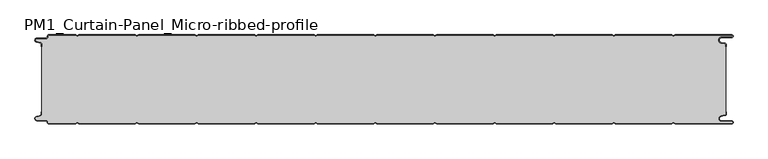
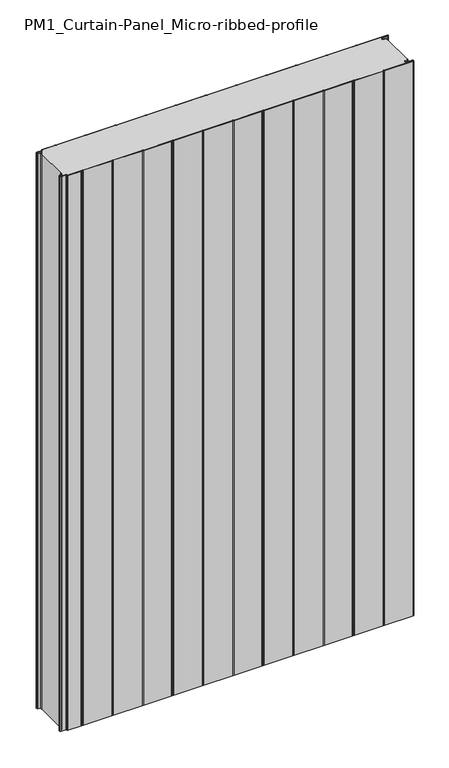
"""IFC4 building model written with IfcOpenShell, lengths in millimetres: plate geometry, PM1_Curtain-Panel_Micro-ribbed-profile : ACH_PM1_Stone-wool-Panel_150M."""

from ifc_helpers import new_model, si_unit, point, frame_2d, origin, origin_with_axes, place, context, project, spatial, polyline, circle_curve, trimmed, segment, composite_curve, outline, extrude, source, transform, mapped, element, save


def pm1_curtain_panel_micro_ribbed_profile_ceefda32(model_context):
    return source(origin(), model_context, "Body", "SweptSolid", [
        extrude(outline(composite_curve([segment(trimmed(circle_curve(frame_2d((-577.0, -15.878557)), 2.0), [point((-575.0, -15.878557))], [point((-576.5500978, -13.9298169))], True, "CARTESIAN"), True, "CONTINUOUS"), segment(polyline([(-576.5500978, -13.9298169), (-582.7098239, -12.507732)]), True, "CONTINUOUS"), segment(trimmed(circle_curve(frame_2d((-581.9, -9.0)), 3.6), [point((-582.7098239, -12.507732))], [point((-581.9, -5.4))], False, "CARTESIAN"), True, "CONTINUOUS"), segment(polyline([(-581.9, -5.4), (-566.4, -5.4)]), True, "CONTINUOUS"), segment(trimmed(circle_curve(frame_2d((-566.4, -3.4)), 2.0), [point((-566.4, -5.4))], [point((-564.4, -3.4))], True, "CARTESIAN"), True, "CONTINUOUS"), segment(polyline([(-564.4, -3.4), (-564.4, -2.0)]), True, "CONTINUOUS"), segment(trimmed(circle_curve(frame_2d((-562.4, -2.0)), 2.0), [point((-564.4, -2.0))], [point((-562.4, 0.0))], False, "CARTESIAN"), True, "CONTINUOUS"), segment(polyline([(-562.4, 0.0), (-517.0999995, 0.0), (-514.4, -1.5588455), (-511.7000005, 0.0), (-417.0999995, 0.0), (-414.4, -1.5588455), (-411.7000005, 0.0), (-317.0999995, 0.0), (-314.4, -1.5588455), (-311.7000005, 0.0), (-217.0999995, 0.0), (-214.4, -1.5588455), (-211.7000005, 0.0), (-117.0999995, 0.0), (-114.4, -1.5588455), (-111.7000005, 0.0), (-17.0999995, 0.0), (-14.4, -1.5588455), (-11.7000005, 0.0), (82.9000005, 0.0), (85.6, -1.5588455), (88.2999995, 0.0), (182.9000005, 0.0), (185.6, -1.5588455), (188.2999995, 0.0), (282.9000005, 0.0), (285.6, -1.5588455), (288.2999995, 0.0), (382.9000005, 0.0), (385.6, -1.5588455), (388.2999995, 0.0), (482.9000005, 0.0), (485.6, -1.5588455), (488.2999995, 0.0), (583.1, 0.0)]), True, "CONTINUOUS"), segment(trimmed(circle_curve(frame_2d((583.1, -2.5)), 2.5), [point((583.1, 0.0))], [point((583.1, -5.0))], False, "CARTESIAN"), True, "CONTINUOUS"), segment(polyline([(583.1, -5.0), (566.1, -5.0)]), True, "CONTINUOUS"), segment(trimmed(circle_curve(frame_2d((566.1, -9.0)), 4.0), [point((566.1, -5.0))], [point((565.405407, -12.939231))], True, "CARTESIAN"), True, "CONTINUOUS"), segment(polyline([(565.405407, -12.939231), (571.8514855, -14.0758491)]), True, "CONTINUOUS"), segment(trimmed(circle_curve(frame_2d((571.4, -16.6363492)), 2.6), [point((571.8514855, -14.0758491))], [point((574.0, -16.6363492))], False, "CARTESIAN"), True, "CONTINUOUS"), segment(polyline([(574.0, -16.6363492), (574.0, -20.0), (573.2, -20.0), (573.2, -16.6363492)]), True, "CONTINUOUS"), segment(trimmed(circle_curve(frame_2d((571.4, -16.6363492)), 1.8), [point((573.2, -16.6363492))], [point((571.7125669, -14.8636953))], True, "CARTESIAN"), True, "CONTINUOUS"), segment(polyline([(571.7125669, -14.8636953), (565.2664884, -13.7270772)]), True, "CONTINUOUS"), segment(trimmed(circle_curve(frame_2d((566.1, -9.0)), 4.8), [point((565.2664884, -13.7270772))], [point((566.1, -4.2))], False, "CARTESIAN"), True, "CONTINUOUS"), segment(polyline([(566.1, -4.2), (583.1, -4.2)]), True, "CONTINUOUS"), segment(trimmed(circle_curve(frame_2d((583.1, -2.5)), 1.7), [point((583.1, -4.2))], [point((583.1, -0.8))], True, "CARTESIAN"), True, "CONTINUOUS"), segment(polyline([(583.1, -0.8), (488.5143588, -0.8), (485.6, -2.482606), (482.6856412, -0.8), (388.5143588, -0.8), (385.6, -2.482606), (382.6856412, -0.8), (288.5143588, -0.8), (285.6, -2.482606), (282.6856412, -0.8), (188.5143588, -0.8), (185.6, -2.482606), (182.6856412, -0.8), (88.5143588, -0.8), (85.6, -2.482606), (82.6856412, -0.8), (-11.4856412, -0.8), (-14.4, -2.482606), (-17.3143588, -0.8), (-111.4856412, -0.8), (-114.4, -2.482606), (-117.3143588, -0.8), (-211.4856412, -0.8), (-214.4, -2.482606), (-217.3143588, -0.8), (-311.4856412, -0.8), (-314.4, -2.482606), (-317.3143588, -0.8), (-411.4856412, -0.8), (-414.4, -2.482606), (-417.3143588, -0.8), (-511.4856412, -0.8), (-514.4, -2.482606), (-517.3143588, -0.8), (-562.4, -0.8)]), True, "CONTINUOUS"), segment(trimmed(circle_curve(frame_2d((-562.4, -2.0)), 1.2), [point((-562.4, -0.8))], [point((-563.6, -2.0))], True, "CARTESIAN"), True, "CONTINUOUS"), segment(polyline([(-563.6, -2.0), (-563.6, -3.4)]), True, "CONTINUOUS"), segment(trimmed(circle_curve(frame_2d((-566.4, -3.4)), 2.8), [point((-563.6, -3.4))], [point((-566.4, -6.2))], False, "CARTESIAN"), True, "CONTINUOUS"), segment(polyline([(-566.4, -6.2), (-581.9, -6.2)]), True, "CONTINUOUS"), segment(trimmed(circle_curve(frame_2d((-581.9, -9.0)), 2.8), [point((-581.9, -6.2))], [point((-582.529863, -11.7282362))], True, "CARTESIAN"), True, "CONTINUOUS"), segment(polyline([(-582.529863, -11.7282362), (-576.370137, -13.150321)]), True, "CONTINUOUS"), segment(trimmed(circle_curve(frame_2d((-577.0, -15.878557)), 2.8), [point((-576.370137, -13.150321))], [point((-574.2, -15.878557))], False, "CARTESIAN"), True, "CONTINUOUS"), segment(polyline([(-574.2, -15.878557), (-574.2, -20.0), (-575.0, -20.0), (-575.0, -15.878557)]), True, "CONTINUOUS")], self_intersect=False)), origin_with_axes(), (0.0, 0.0, 1.0), 1945.7507136),
        extrude(outline(composite_curve([segment(polyline([(-574.2, -134.1214426), (-574.2, -15.8785573)]), True, "CONTINUOUS"), segment(trimmed(circle_curve(frame_2d((-577.0, -15.8785573)), 2.8), [point((-574.2, -15.8785573))], [point((-576.370137, -13.1503212))], True, "CARTESIAN"), True, "CONTINUOUS"), segment(polyline([(-576.370137, -13.1503212), (-582.5298631, -11.7282362)]), True, "CONTINUOUS"), segment(trimmed(circle_curve(frame_2d((-581.9, -9.0)), 2.8), [point((-582.5298631, -11.7282362))], [point((-581.9, -6.2))], False, "CARTESIAN"), True, "CONTINUOUS"), segment(polyline([(-581.9, -6.2), (-566.4000001, -6.2)]), True, "CONTINUOUS"), segment(trimmed(circle_curve(frame_2d((-566.4000001, -3.4)), 2.8), [point((-566.4000001, -6.2))], [point((-563.6000001, -3.4))], True, "CARTESIAN"), True, "CONTINUOUS"), segment(polyline([(-563.6000001, -3.4), (-563.6000001, -2.0)]), True, "CONTINUOUS"), segment(trimmed(circle_curve(frame_2d((-562.4000001, -2.0)), 1.2), [point((-563.6000001, -2.0))], [point((-562.4000001, -0.8))], False, "CARTESIAN"), True, "CONTINUOUS"), segment(polyline([(-562.4000001, -0.8), (-517.3143589, -0.8), (-514.4000001, -2.482606), (-511.4856412, -0.8), (-417.3143589, -0.8), (-414.4000001, -2.482606), (-411.4856412, -0.8), (-317.3143589, -0.8), (-314.4000001, -2.482606), (-311.4856412, -0.8), (-217.3143589, -0.8), (-214.4000001, -2.482606), (-211.4856412, -0.8), (-117.3143589, -0.8), (-114.4000001, -2.482606), (-111.4856412, -0.8), (-17.3143589, -0.8), (-14.4000001, -2.482606), (-11.4856412, -0.8), (82.6856411, -0.8), (85.5999999, -2.482606), (88.5143588, -0.8), (182.6856411, -0.8), (185.5999999, -2.482606), (188.5143588, -0.8), (282.6856411, -0.8), (285.5999999, -2.482606), (288.5143588, -0.8), (382.6856411, -0.8), (385.5999999, -2.482606), (388.5143588, -0.8), (482.6856411, -0.8), (485.6, -2.482606), (488.5143588, -0.8), (583.1, -0.8)]), True, "CONTINUOUS"), segment(trimmed(circle_curve(frame_2d((583.1, -2.5)), 1.7), [point((583.1, -0.8))], [point((583.1, -4.2))], False, "CARTESIAN"), True, "CONTINUOUS"), segment(polyline([(583.1, -4.2), (566.1, -4.2)]), True, "CONTINUOUS"), segment(trimmed(circle_curve(frame_2d((566.1, -9.0)), 4.8), [point((566.1, -4.2))], [point((565.2664883, -13.7270771))], True, "CARTESIAN"), True, "CONTINUOUS"), segment(polyline([(565.2664883, -13.7270771), (571.7125668, -14.8636953)]), True, "CONTINUOUS"), segment(trimmed(circle_curve(frame_2d((571.4, -16.6363492)), 1.8), [point((571.7125668, -14.8636953))], [point((573.2, -16.6363492))], False, "CARTESIAN"), True, "CONTINUOUS"), segment(polyline([(573.2, -16.6363492), (573.2, -133.3636508)]), True, "CONTINUOUS"), segment(trimmed(circle_curve(frame_2d((571.4, -133.3636508)), 1.8), [point((573.2, -133.3636508))], [point((571.7125668, -135.1363047))], False, "CARTESIAN"), True, "CONTINUOUS"), segment(polyline([(571.7125668, -135.1363047), (565.2664883, -136.2729229)]), True, "CONTINUOUS"), segment(trimmed(circle_curve(frame_2d((566.1, -141.0)), 4.8), [point((565.2664883, -136.2729229))], [point((566.1, -145.8))], True, "CARTESIAN"), True, "CONTINUOUS"), segment(polyline([(566.1, -145.8), (583.1, -145.8)]), True, "CONTINUOUS"), segment(trimmed(circle_curve(frame_2d((583.1, -147.5)), 1.7), [point((583.1, -145.8))], [point((583.1, -149.2))], False, "CARTESIAN"), True, "CONTINUOUS"), segment(polyline([(583.1, -149.2), (488.5143588, -149.2), (485.6, -147.517394), (482.6856411, -149.2), (388.5143588, -149.2), (385.5999999, -147.517394), (382.6856411, -149.2), (288.5143588, -149.2), (285.5999999, -147.517394), (282.6856411, -149.2), (188.5143588, -149.2), (185.5999999, -147.517394), (182.6856411, -149.2), (88.5143588, -149.2), (85.5999999, -147.517394), (82.6856411, -149.2), (-11.4856412, -149.2), (-14.4000001, -147.517394), (-17.3143589, -149.2), (-111.4856412, -149.2), (-114.4000001, -147.517394), (-117.3143589, -149.2), (-211.4856412, -149.2), (-214.4000001, -147.517394), (-217.3143589, -149.2), (-311.4856412, -149.2), (-314.4000001, -147.517394), (-317.3143589, -149.2), (-411.4856412, -149.2), (-414.4000001, -147.517394), (-417.3143589, -149.2), (-511.4856412, -149.2), (-514.4000001, -147.517394), (-517.3143589, -149.2), (-562.4000001, -149.2)]), True, "CONTINUOUS"), segment(trimmed(circle_curve(frame_2d((-562.4000001, -148.0)), 1.2), [point((-562.4000001, -149.2))], [point((-563.6000001, -148.0))], False, "CARTESIAN"), True, "CONTINUOUS"), segment(polyline([(-563.6000001, -148.0), (-563.6000001, -146.6)]), True, "CONTINUOUS"), segment(trimmed(circle_curve(frame_2d((-566.4000001, -146.6)), 2.8), [point((-563.6000001, -146.6))], [point((-566.4000001, -143.8))], True, "CARTESIAN"), True, "CONTINUOUS"), segment(polyline([(-566.4000001, -143.8), (-581.9, -143.8)]), True, "CONTINUOUS"), segment(trimmed(circle_curve(frame_2d((-581.9, -141.0)), 2.8), [point((-581.9, -143.8))], [point((-582.5298631, -138.2717638))], False, "CARTESIAN"), True, "CONTINUOUS"), segment(polyline([(-582.5298631, -138.2717638), (-576.370137, -136.8496788)]), True, "CONTINUOUS"), segment(trimmed(circle_curve(frame_2d((-577.0, -134.1214426)), 2.8), [point((-576.370137, -136.8496788))], [point((-574.2, -134.1214426))], True, "CARTESIAN"), True, "CONTINUOUS")], self_intersect=False)), origin_with_axes(), (0.0, 0.0, 1.0), 1945.7507136),
        extrude(outline(composite_curve([segment(polyline([(-575.0, -134.121443), (-575.0, -130.0), (-574.2, -130.0), (-574.2, -134.121443)]), True, "CONTINUOUS"), segment(trimmed(circle_curve(frame_2d((-577.0, -134.121443)), 2.8), [point((-574.2, -134.121443))], [point((-576.370137, -136.8496792))], False, "CARTESIAN"), True, "CONTINUOUS"), segment(polyline([(-576.370137, -136.8496792), (-582.529863, -138.271764)]), True, "CONTINUOUS"), segment(trimmed(circle_curve(frame_2d((-581.9, -141.0)), 2.8), [point((-582.529863, -138.271764))], [point((-581.9, -143.8))], True, "CARTESIAN"), True, "CONTINUOUS"), segment(polyline([(-581.9, -143.8), (-566.4, -143.8)]), True, "CONTINUOUS"), segment(trimmed(circle_curve(frame_2d((-566.4, -146.6)), 2.8), [point((-566.4, -143.8))], [point((-563.6, -146.6))], False, "CARTESIAN"), True, "CONTINUOUS"), segment(polyline([(-563.6, -146.6), (-563.6, -148.0)]), True, "CONTINUOUS"), segment(trimmed(circle_curve(frame_2d((-562.4, -148.0)), 1.2), [point((-563.6, -148.0))], [point((-562.4, -149.2))], True, "CARTESIAN"), True, "CONTINUOUS"), segment(polyline([(-562.4, -149.2), (-517.3143588, -149.2), (-514.4, -147.517394), (-511.4856412, -149.2), (-417.3143588, -149.2), (-414.4, -147.517394), (-411.4856412, -149.2), (-317.3143588, -149.2), (-314.4, -147.517394), (-311.4856412, -149.2), (-217.3143588, -149.2), (-214.4, -147.517394), (-211.4856412, -149.2), (-117.3143588, -149.2), (-114.4, -147.517394), (-111.4856412, -149.2), (-17.3143588, -149.2), (-14.4, -147.517394), (-11.4856412, -149.2), (82.6856412, -149.2), (85.6, -147.517394), (88.5143588, -149.2), (182.6856412, -149.2), (185.6, -147.517394), (188.5143588, -149.2), (282.6856412, -149.2), (285.6, -147.517394), (288.5143588, -149.2), (382.6856412, -149.2), (385.6, -147.517394), (388.5143588, -149.2), (482.6856412, -149.2), (485.6, -147.517394), (488.5143588, -149.2), (583.1, -149.2)]), True, "CONTINUOUS"), segment(trimmed(circle_curve(frame_2d((583.1, -147.5)), 1.7), [point((583.1, -149.2))], [point((583.1, -145.8))], True, "CARTESIAN"), True, "CONTINUOUS"), segment(polyline([(583.1, -145.8), (566.1, -145.8)]), True, "CONTINUOUS"), segment(trimmed(circle_curve(frame_2d((566.1, -141.0)), 4.8), [point((566.1, -145.8))], [point((565.2664884, -136.2729229))], False, "CARTESIAN"), True, "CONTINUOUS"), segment(polyline([(565.2664884, -136.2729229), (571.7125669, -135.1363047)]), True, "CONTINUOUS"), segment(trimmed(circle_curve(frame_2d((571.4, -133.3636508)), 1.8), [point((571.7125669, -135.1363047))], [point((573.2, -133.3636508))], True, "CARTESIAN"), True, "CONTINUOUS"), segment(polyline([(573.2, -133.3636508), (573.2, -130.0), (574.0, -130.0), (574.0, -133.3636508)]), True, "CONTINUOUS"), segment(trimmed(circle_curve(frame_2d((571.4, -133.3636508)), 2.6), [point((574.0, -133.3636508))], [point((571.8514855, -135.9241509))], False, "CARTESIAN"), True, "CONTINUOUS"), segment(polyline([(571.8514855, -135.9241509), (565.405407, -137.060769)]), True, "CONTINUOUS"), segment(trimmed(circle_curve(frame_2d((566.1, -141.0)), 4.0), [point((565.405407, -137.060769))], [point((566.1, -145.0))], True, "CARTESIAN"), True, "CONTINUOUS"), segment(polyline([(566.1, -145.0), (583.1, -145.0)]), True, "CONTINUOUS"), segment(trimmed(circle_curve(frame_2d((583.1, -147.5)), 2.5), [point((583.1, -145.0))], [point((583.1, -150.0))], False, "CARTESIAN"), True, "CONTINUOUS"), segment(polyline([(583.1, -150.0), (488.2999995, -150.0), (485.6, -148.4411545), (482.9000005, -150.0), (388.2999995, -150.0), (385.6, -148.4411545), (382.9000005, -150.0), (288.2999995, -150.0), (285.6, -148.4411545), (282.9000005, -150.0), (188.2999995, -150.0), (185.6, -148.4411545), (182.9000005, -150.0), (88.2999995, -150.0), (85.6, -148.4411545), (82.9000005, -150.0), (-11.7000005, -150.0), (-14.4, -148.4411545), (-17.0999995, -150.0), (-111.7000005, -150.0), (-114.4, -148.4411545), (-117.0999995, -150.0), (-211.7000005, -150.0), (-214.4, -148.4411545), (-217.0999995, -150.0), (-311.7000005, -150.0), (-314.4, -148.4411545), (-317.0999995, -150.0), (-411.7000005, -150.0), (-414.4, -148.4411545), (-417.0999995, -150.0), (-511.7000005, -150.0), (-514.4, -148.4411545), (-517.0999995, -150.0), (-562.4, -150.0)]), True, "CONTINUOUS"), segment(trimmed(circle_curve(frame_2d((-562.4, -148.0)), 2.0), [point((-562.4, -150.0))], [point((-564.4, -148.0))], False, "CARTESIAN"), True, "CONTINUOUS"), segment(polyline([(-564.4, -148.0), (-564.4, -146.6)]), True, "CONTINUOUS"), segment(trimmed(circle_curve(frame_2d((-566.4, -146.6)), 2.0), [point((-564.4, -146.6))], [point((-566.4, -144.6))], True, "CARTESIAN"), True, "CONTINUOUS"), segment(polyline([(-566.4, -144.6), (-581.9, -144.6)]), True, "CONTINUOUS"), segment(trimmed(circle_curve(frame_2d((-581.9, -141.0)), 3.6), [point((-581.9, -144.6))], [point((-582.7098239, -137.4922678))], False, "CARTESIAN"), True, "CONTINUOUS"), segment(polyline([(-582.7098239, -137.4922678), (-576.5500979, -136.070183)]), True, "CONTINUOUS"), segment(trimmed(circle_curve(frame_2d((-577.0, -134.121443)), 2.0), [point((-576.5500979, -136.070183))], [point((-575.0, -134.121443))], True, "CARTESIAN"), True, "CONTINUOUS")], self_intersect=False)), origin_with_axes(), (0.0, 0.0, 1.0), 1945.7507136),
    ])


if __name__ == "__main__":
    model = new_model("IFC4")
    model_context = context("Model", 3, world=origin())
    ifc_project = project(units=[si_unit("LENGTHUNIT", "METRE", prefix="MILLI")], contexts=[model_context])
    site = spatial("IfcSite", under=ifc_project)
    building = spatial("IfcBuilding", under=site)
    placement = place(None, origin())
    pm1_curtain_panel_micro_ribbed_profile_shape = pm1_curtain_panel_micro_ribbed_profile_ceefda32(model_context)
    element("IfcPlate", 1, ObjectType="PM1_Curtain-Panel_Micro-ribbed-profile : ACH_PM1_Stone-wool-Panel_150M", at=placement, inside=building, context=model_context, shape_type="MappedRepresentation", body=[
        mapped(pm1_curtain_panel_micro_ribbed_profile_shape, transform((0.0, 0.0, 0.0), x_axis=(1.0, 0.0, 0.0), y_axis=(0.0, 1.0, 0.0), z_axis=(0.0, 0.0, 1.0))),
    ])
    save(model, "model.ifc")
